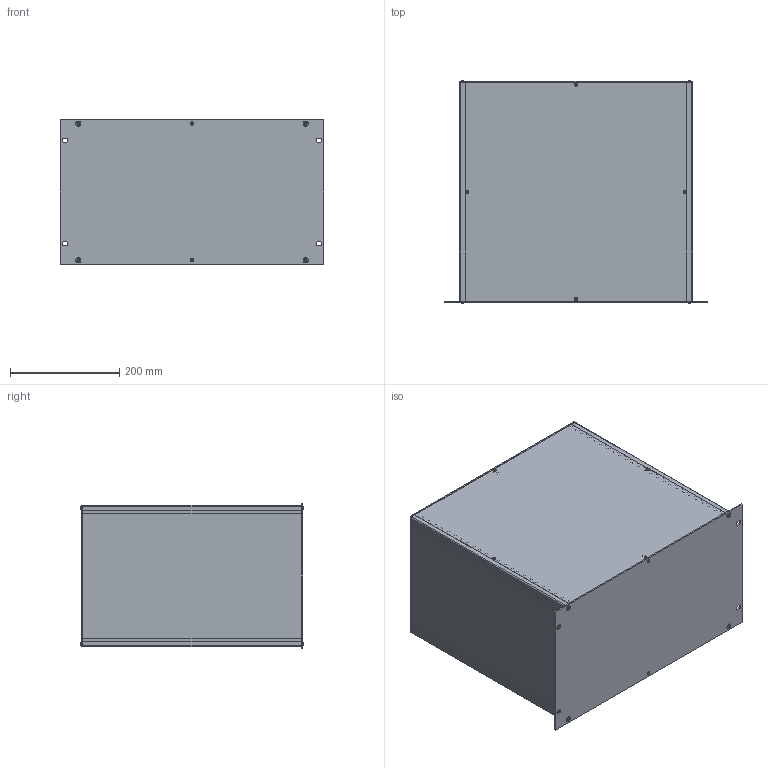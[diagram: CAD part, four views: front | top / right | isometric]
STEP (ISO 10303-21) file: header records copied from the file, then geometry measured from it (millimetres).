
FILE_DESCRIPTION(/* description */ (''),/* implementation_level */ '2;1');
FILE_NAME(/* name */ '//diskstation/Kunden/Gehäuse/Gehäuse/6HE/step/Zoll 6HE Rack Gehäuse Tiefe-400.step',/* time_stamp */ '2022-02-17T16:54:12+01:00',/* author */ (''),/* organization */ (''),/* preprocessor_version */ 'ST-DEVELOPER v18.1',/* originating_system */ 'Autodesk Translation Framework v10.10.0.1391',/* authorisation */ '');
FILE_SCHEMA (('AUTOMOTIVE_DESIGN { 1 0 10303 214 3 1 1 }'));
Length unit declared in the file: millimetre
Products named in the file (28): 6HE Gehäuse mit parametern; Gehäuse; Gehäuseprofil 1 unten links; Gehäuseprofil 2 oben rechts; Gehäuseprofil 1 unten rechts; Gehäuseprofil 2 oben links; Rückplatte; Deckel; Seitenteil links; Seitenteil rechts; Bodenplatte; Montageklotz Front/Deckel; Montageklotz Front/Boden; Montageklotz Rück/Deckel; Montageklotz Rück/Boden; Gewindestreifen; Frontplatte; Schrauben M5; Schraube Front; Schraube Front (1); Schraube Front (2); Schraube Front (3); Schraube Rück (1); Schraube Rück; Schraube Rück (2); Schraube Rück (3); Schrauben M3; HI_Senkschraube DIN 965 A v2 M3x5 24677.030.005(High)
Assembly tree (37 placements, depth 3):
  6HE Gehäuse mit parametern
    Gehäuse
      Gehäuseprofil 1 unten links
      Gehäuseprofil 2 oben rechts
      Gehäuseprofil 1 unten rechts
      Gehäuseprofil 2 oben links
      Rückplatte
      Deckel
      Seitenteil links
      Seitenteil rechts
      Bodenplatte
      Montageklotz Front/Deckel
      Montageklotz Front/Boden
      Montageklotz Rück/Deckel
      Montageklotz Rück/Boden
      Gewindestreifen  x2
    Frontplatte
    Schrauben M5
      Schraube Front
      Schraube Front (1)
      Schraube Front (2)
      Schraube Front (3)
      Schraube Rück (1)
      Schraube Rück
      Schraube Rück (2)
      Schraube Rück (3)
    Schrauben M3
      HI_Senkschraube DIN 965 A v2 M3x5 24677.030.005(High)  x10
Bounding box: 483 x 408.2 x 265 mm (x, y, z)
Volume: 1969389.7 mm3; surface area: 1696907.4 mm2
Topology: 34 solids, 34 shells, 914 faces, 2256 edges, 1410 vertices
Faces by surface type: cylinder 392, plane 342, cone 164, torus 8, bspline 8
Full cylindrical faces by diameter (mm): 2.529 x150, 3 x10, 3.2 x10, 4.234 x40, 5 x8, 5.2 x4, 5.3 x8, 5.6 x10, 9.5 x8
Entity records: 18015 total; most frequent: CARTESIAN_POINT 3258, DIRECTION 3030, ORIENTED_EDGE 2670, EDGE_CURVE 1335, AXIS2_PLACEMENT_3D 1150, VERTEX_POINT 838, EDGE_LOOP 821, LINE 730
